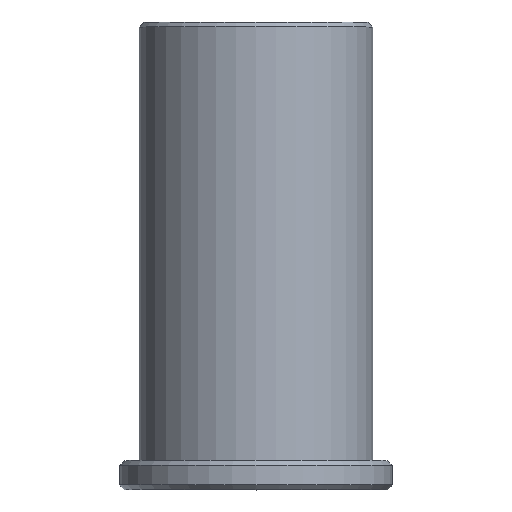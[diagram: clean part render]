
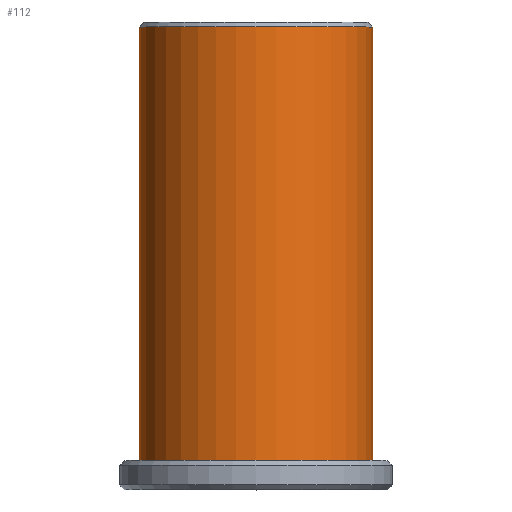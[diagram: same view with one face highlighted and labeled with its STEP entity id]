
A CAD part, top view. The second image highlights one B-rep face of the part: STEP entity #112.
In plain terms, the highlighted cylindrical face has radius 12 mm (diameter 24 mm), a full revolution.
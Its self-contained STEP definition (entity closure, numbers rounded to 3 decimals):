
#108=CYLINDRICAL_SURFACE('',#230,12.);
#112=ADVANCED_FACE('',(#127,#128),#108,.T.);
#127=FACE_BOUND('',#149,.T.);
#128=FACE_BOUND('',#150,.T.);
#149=EDGE_LOOP('',(#171));
#150=EDGE_LOOP('',(#172));
#171=ORIENTED_EDGE('',*,*,#204,.T.);
#172=ORIENTED_EDGE('',*,*,#205,.F.);
#193=VERTEX_POINT('',#300);
#194=VERTEX_POINT('',#302);
#204=EDGE_CURVE('',#193,#193,#215,.T.);
#205=EDGE_CURVE('',#194,#194,#216,.T.);
#215=CIRCLE('',#228,12.);
#216=CIRCLE('',#229,12.);
#228=AXIS2_PLACEMENT_3D('',#299,#255,#256);
#229=AXIS2_PLACEMENT_3D('',#301,#257,#258);
#230=AXIS2_PLACEMENT_3D('',#303,#259,#260);
#255=DIRECTION('',(0.,-1.,0.));
#256=DIRECTION('',(0.,0.,1.));
#257=DIRECTION('',(0.,-1.,0.));
#258=DIRECTION('',(0.,0.,1.));
#259=DIRECTION('',(0.,1.,0.));
#260=DIRECTION('',(1.,0.,0.));
#299=CARTESIAN_POINT('',(0.,44.5,0.));
#300=CARTESIAN_POINT('',(0.,44.5,12.));
#301=CARTESIAN_POINT('',(0.,0.,0.));
#302=CARTESIAN_POINT('',(0.,0.,12.));
#303=CARTESIAN_POINT('',(0.,0.,0.));
